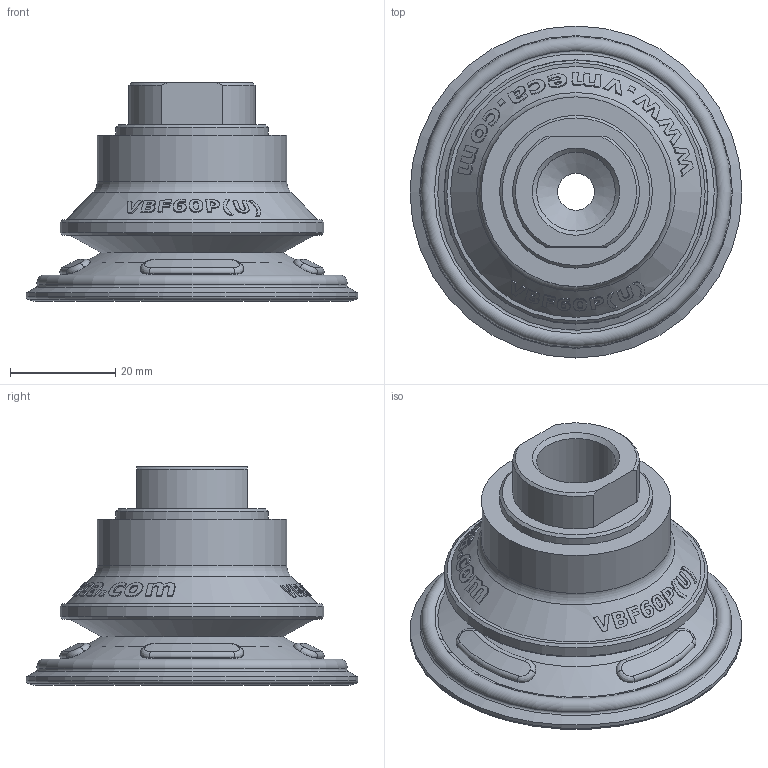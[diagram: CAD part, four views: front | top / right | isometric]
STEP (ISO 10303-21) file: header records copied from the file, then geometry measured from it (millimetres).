
FILE_DESCRIPTION( ( 'Unknown' ), '1' );
FILE_NAME( 'D:/濛機奢濰/Vacuum Pads/VBF/VBF60/STP/VBF60 P(U)_38F.stp', 'Unknown', ( 'Unknown' ), ( 'Unknown' ), 'XStep 1.0', 'Unknown', ' ' );
FILE_SCHEMA( ( 'automotive_design' ) );
Length unit declared in the file: millimetre
Products named in the file (1): 1
Bounding box: 63 x 63 x 41.5 mm (x, y, z)
Volume: 27377 mm3; surface area: 16220.8 mm2
Topology: 1 solids, 1 shells, 318 faces, 760 edges, 489 vertices
Faces by surface type: bspline 204, cone 59, cylinder 19, plane 19, torus 17
Full cylindrical faces by diameter (mm): 5 x8, 7 x1, 12 x1, 14.95 x2, 28 x1, 29 x1, 36 x1, 49.995 x1, 63 x1
Entity records: 21843 total; most frequent: CARTESIAN_POINT 13828, ORIENTED_EDGE 1420, EDGE_CURVE 710, B_SPLINE_CURVE_WITH_KNOTS 588, VERTEX_POINT 484, DIRECTION 466, EDGE_LOOP 410, FACE_OUTER_BOUND 348
